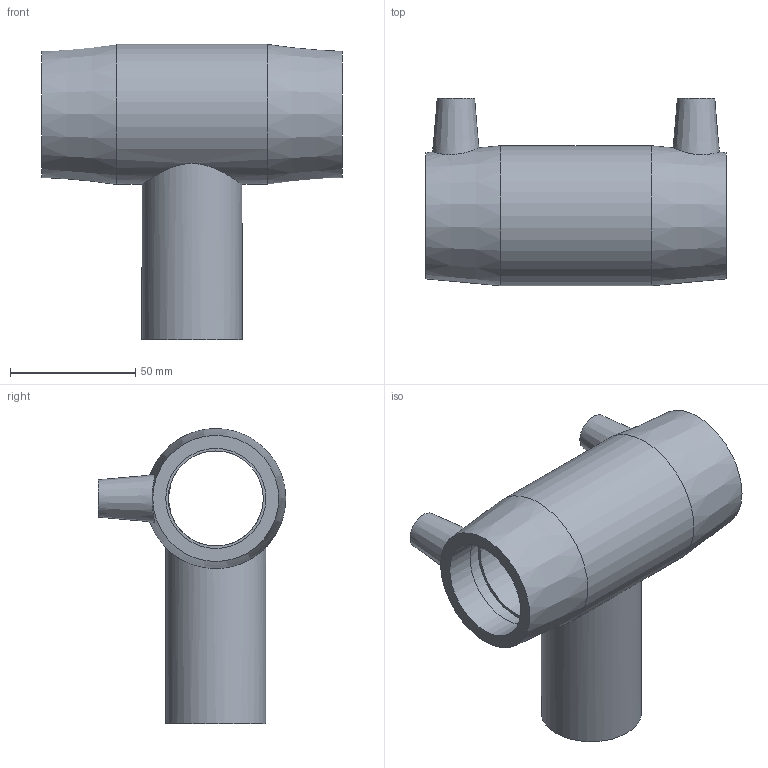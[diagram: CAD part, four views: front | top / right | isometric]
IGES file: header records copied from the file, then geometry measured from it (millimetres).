
Global section: file name: 490404040.ipt; native system: Autodesk Inventor 2015; preprocessor: unknown; author: KIM; date: 20171106.093610; units: millimetre
Bounding box: 120 x 75 x 118 mm (x, y, z)
Volume: 164209.9 mm3; surface area: 54175.7 mm2
Topology: 1 solids, 1 shells, 31 faces, 72 edges, 52 vertices
Faces by surface type: plane 13, revolution 10, cylinder 4, cone 4
Full cylindrical faces by diameter (mm): 4.8 x2, 40 x1, 56 x1
